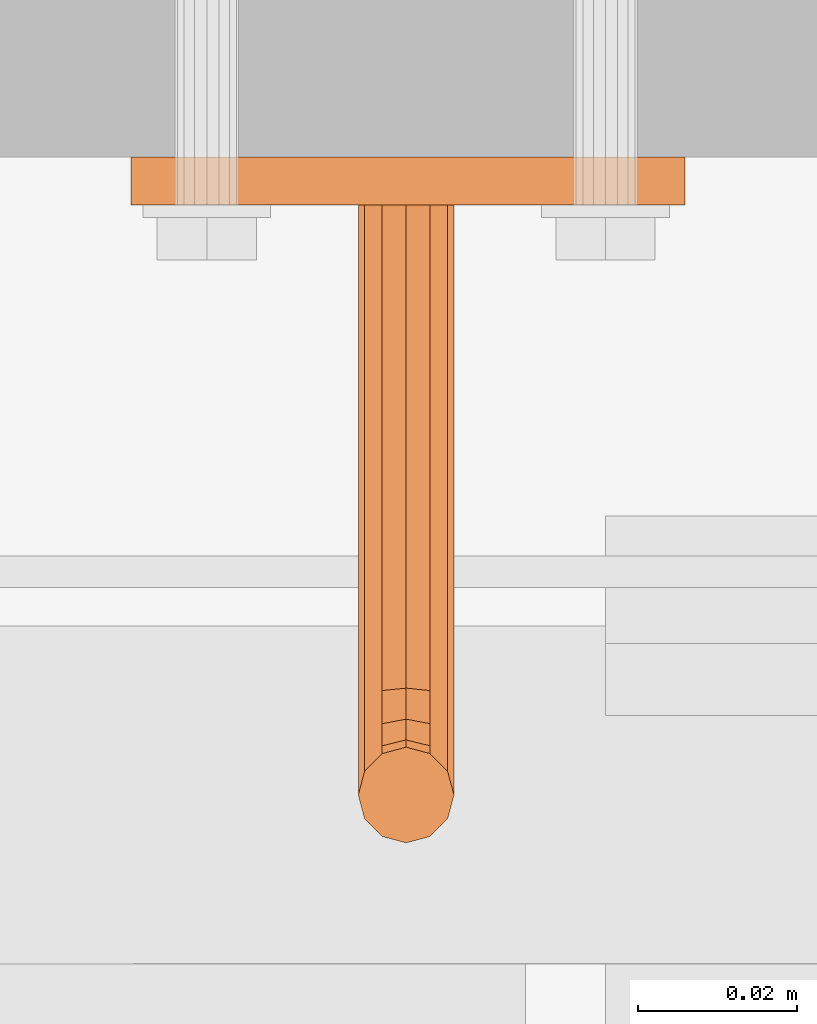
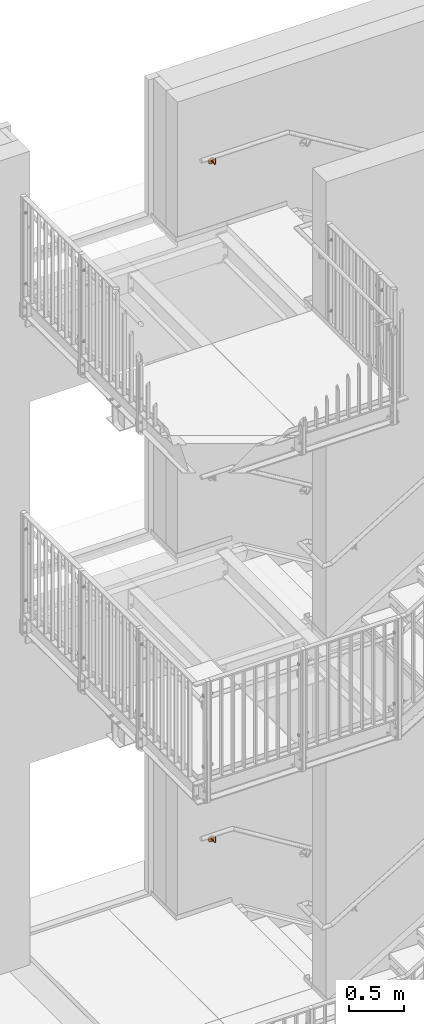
# One storey, part 380 of 410: 2 proxies.
"""IFC2X3 building model written with IfcOpenShell, lengths in millimetres."""

from ifc_helpers import new_model, entity, si_unit, converted_unit, origin_with_axes, place, context, project, spatial, faceted_brep, element, save


model = new_model("IFC2X3")

# Units and contexts
model_context = context("Model", 3, precision=1e-09, world=origin_with_axes())
ifc_project = project(units=[si_unit("LENGTHUNIT", "METRE", prefix="MILLI"), si_unit("AREAUNIT", "SQUARE_METRE"), si_unit("VOLUMEUNIT", "CUBIC_METRE"), converted_unit("PLANEANGLEUNIT", "DEGREE", entity("IfcPlaneAngleMeasure", 0.01745329), si_unit("PLANEANGLEUNIT", "RADIAN"), dimensions=[0, 0, 0, 0, 0, 0, 0])], contexts=[model_context])

# Site, building, storey
site_placement = place(None, origin_with_axes())
site = spatial("IfcSite", under=ifc_project, at=site_placement, Name="mKR Teilneubau & Sanierung BA1 - Ostfildern", CompositionType="ELEMENT")
building_placement = place(site_placement, origin_with_axes())
building = spatial("IfcBuilding", under=site, at=building_placement, Name="Struktur 1", CompositionType="ELEMENT")
storey_placement = place(building_placement, origin_with_axes())
storey = spatial("IfcBuildingStorey", under=building, at=storey_placement, Name="Default Storey", CompositionType="ELEMENT", Elevation=0.0)

# Proxies
proxy_1_placement = place(None, origin_with_axes())
element("IfcBuildingElementProxy", 1, at=proxy_1_placement, inside=storey, ObjectType="-", context=model_context, shape_type="Brep", body=[
    faceted_brep([(-1918.68139098, 18620.000061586, 8234.724465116), (-1918.68139098, 18614.000061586, 8234.724465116), (-1919.250783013, 18614.000061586, 8232.599465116), (-1919.250783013, 18620.000061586, 8232.599465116), (-1870.857597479, 18614.000061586, 8261.900291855), (-1881.408790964, 18614.000061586, 8266.528474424), (-1892.891060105, 18614.000061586, 8267.479922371), (-1904.060122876, 18614.000061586, 8264.651531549), (-1913.70563802, 18614.000061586, 8258.34980199), (-1920.782364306, 18614.000061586, 8249.257623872), (-1924.523428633, 18614.000061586, 8238.360275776), (-1924.523428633, 18614.000061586, 8226.838654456), (-1920.782364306, 18614.000061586, 8215.94130636), (-1913.70563802, 18614.000061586, 8206.849128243), (-1904.060122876, 18614.000061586, 8200.547398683), (-1892.891060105, 18614.000061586, 8197.719007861), (-1881.408790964, 18614.000061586, 8198.670455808), (-1870.857597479, 18614.000061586, 8203.298638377), (-1862.380865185, 18614.000061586, 8211.102020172), (-1856.897179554, 18614.000061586, 8221.234983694), (-1855.000783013, 18614.000061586, 8232.599465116), (-1856.897179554, 18614.000061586, 8243.963946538), (-1862.380865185, 18614.000061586, 8254.09691006), (-1917.125783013, 18614.000061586, 8236.280073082), (-1915.000783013, 18614.000061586, 8236.849465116), (-1912.875783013, 18614.000061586, 8236.280073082), (-1911.320175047, 18614.000061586, 8234.724465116), (-1910.750783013, 18614.000061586, 8232.599465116), (-1911.320175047, 18614.000061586, 8230.474465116), (-1912.875783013, 18614.000061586, 8228.91885715), (-1915.000783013, 18614.000061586, 8228.349465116), (-1917.125783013, 18614.000061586, 8228.91885715), (-1918.68139098, 18614.000061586, 8230.474465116), (-1868.68139098, 18614.000061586, 8234.724465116), (-1867.125783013, 18614.000061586, 8236.280073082), (-1865.000783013, 18614.000061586, 8236.849465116), (-1862.875783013, 18614.000061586, 8236.280073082), (-1861.320175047, 18614.000061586, 8234.724465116), (-1860.750783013, 18614.000061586, 8232.599465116), (-1861.320175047, 18614.000061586, 8230.474465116), (-1862.875783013, 18614.000061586, 8228.91885715), (-1865.000783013, 18614.000061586, 8228.349465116), (-1867.125783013, 18614.000061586, 8228.91885715), (-1868.68139098, 18614.000061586, 8230.474465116), (-1869.250783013, 18614.000061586, 8232.599465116), (-1917.125783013, 18620.000061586, 8236.280073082), (-1870.857597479, 18620.000061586, 8203.298638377), (-1881.408790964, 18620.000061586, 8198.670455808), (-1892.891060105, 18620.000061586, 8197.719007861), (-1904.060122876, 18620.000061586, 8200.547398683), (-1913.70563802, 18620.000061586, 8206.849128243), (-1920.782364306, 18620.000061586, 8215.94130636), (-1924.523428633, 18620.000061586, 8226.838654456), (-1924.523428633, 18620.000061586, 8238.360275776), (-1920.782364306, 18620.000061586, 8249.257623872), (-1913.70563802, 18620.000061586, 8258.34980199), (-1904.060122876, 18620.000061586, 8264.651531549), (-1892.891060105, 18620.000061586, 8267.479922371), (-1881.408790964, 18620.000061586, 8266.528474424), (-1870.857597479, 18620.000061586, 8261.900291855), (-1862.380865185, 18620.000061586, 8254.09691006), (-1856.897179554, 18620.000061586, 8243.963946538), (-1855.000783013, 18620.000061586, 8232.599465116), (-1856.897179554, 18620.000061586, 8221.234983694), (-1862.380865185, 18620.000061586, 8211.102020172), (-1918.68139098, 18620.000061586, 8230.474465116), (-1917.125783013, 18620.000061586, 8228.91885715), (-1915.000783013, 18620.000061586, 8228.349465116), (-1912.875783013, 18620.000061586, 8228.91885715), (-1911.320175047, 18620.000061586, 8230.474465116), (-1910.750783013, 18620.000061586, 8232.599465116), (-1911.320175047, 18620.000061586, 8234.724465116), (-1912.875783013, 18620.000061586, 8236.280073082), (-1915.000783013, 18620.000061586, 8236.849465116), (-1868.68139098, 18620.000061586, 8230.474465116), (-1867.125783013, 18620.000061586, 8228.91885715), (-1865.000783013, 18620.000061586, 8228.349465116), (-1862.875783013, 18620.000061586, 8228.91885715), (-1861.320175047, 18620.000061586, 8230.474465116), (-1860.750783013, 18620.000061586, 8232.599465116), (-1861.320175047, 18620.000061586, 8234.724465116), (-1862.875783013, 18620.000061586, 8236.280073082), (-1865.000783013, 18620.000061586, 8236.849465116), (-1867.125783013, 18620.000061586, 8236.280073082), (-1868.68139098, 18620.000061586, 8234.724465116), (-1869.250783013, 18620.000061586, 8232.599465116)], [[[0, 1, 2, 3]], [[4, 5, 6, 7, 8, 9, 10, 11, 12, 13, 14, 15, 16, 17, 18, 19, 20, 21, 22], [2, 1, 23, 24, 25, 26, 27, 28, 29, 30, 31, 32], [33, 34, 35, 36, 37, 38, 39, 40, 41, 42, 43, 44]], [[1, 0, 45, 23]], [[46, 47, 48, 49, 50, 51, 52, 53, 54, 55, 56, 57, 58, 59, 60, 61, 62, 63, 64], [0, 3, 65, 66, 67, 68, 69, 70, 71, 72, 73, 45], [74, 75, 76, 77, 78, 79, 80, 81, 82, 83, 84, 85]], [[3, 2, 32, 65]], [[10, 53, 52, 11]], [[65, 32, 31, 66]], [[23, 45, 73, 24]], [[53, 10, 9, 54]], [[66, 31, 30, 67]], [[11, 52, 51, 12]], [[24, 73, 72, 25]], [[8, 55, 54, 9]], [[67, 30, 29, 68]], [[55, 8, 7, 56]], [[50, 13, 12, 51]], [[25, 72, 71, 26]], [[13, 50, 49, 14]], [[68, 29, 28, 69]], [[26, 71, 70, 27]], [[56, 7, 6, 57]], [[69, 28, 27, 70]], [[14, 49, 48, 15]], [[57, 6, 5, 58]], [[44, 85, 84, 33]], [[15, 48, 47, 16]], [[85, 44, 43, 74]], [[33, 84, 83, 34]], [[58, 5, 4, 59]], [[16, 47, 46, 17]], [[74, 43, 42, 75]], [[34, 83, 82, 35]], [[59, 4, 22, 60]], [[17, 46, 64, 18]], [[75, 42, 41, 76]], [[35, 82, 81, 36]], [[60, 22, 21, 61]], [[18, 64, 63, 19]], [[76, 41, 40, 77]], [[20, 62, 61, 21]], [[36, 81, 80, 37]], [[62, 20, 19, 63]], [[77, 40, 39, 78]], [[37, 80, 79, 38]], [[78, 39, 38, 79]]]),
    faceted_brep([(-1884.000783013, 18558.000061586, 8232.599465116), (-1884.000783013, 18614.000061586, 8232.599465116), (-1884.804630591, 18614.000061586, 8235.599465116), (-1884.804630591, 18558.000061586, 8235.599465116), (-1884.804630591, 18537.000061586, 8250.599465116), (-1884.804630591, 18537.000061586, 8307.599465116), (-1887.000783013, 18534.803909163, 8307.599465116), (-1887.000783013, 18534.803909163, 8250.599465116), (-1884.000783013, 18540.000061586, 8250.599465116), (-1884.000783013, 18540.000061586, 8307.599465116), (-1887.000783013, 18536.569611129, 8241.722681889), (-1884.804630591, 18538.598591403, 8242.563113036), (-1893.000783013, 18614.000061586, 8227.403312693), (-1895.196935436, 18614.000061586, 8229.599465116), (-1896.000783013, 18614.000061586, 8232.599465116), (-1895.196935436, 18614.000061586, 8235.599465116), (-1893.000783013, 18614.000061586, 8237.795617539), (-1890.000783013, 18614.000061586, 8238.599465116), (-1887.000783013, 18614.000061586, 8237.795617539), (-1884.804630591, 18614.000061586, 8229.599465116), (-1887.000783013, 18614.000061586, 8227.403312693), (-1890.000783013, 18614.000061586, 8226.599465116), (-1884.804630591, 18558.000061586, 8229.599465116), (-1884.804630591, 18552.2598101, 8236.741272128), (-1884.000783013, 18551.111759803, 8233.969633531), (-1893.000783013, 18545.196214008, 8307.599465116), (-1895.196935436, 18543.000061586, 8307.599465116), (-1896.000783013, 18540.000061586, 8307.599465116), (-1895.196935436, 18537.000061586, 8307.599465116), (-1893.000783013, 18534.803909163, 8307.599465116), (-1890.000783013, 18534.000061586, 8307.599465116), (-1884.804630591, 18543.000061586, 8307.599465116), (-1887.000783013, 18545.196214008, 8307.599465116), (-1890.000783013, 18546.000061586, 8307.599465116), (-1884.000783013, 18541.37023, 8243.711163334), (-1884.804630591, 18543.150819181, 8235.750222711), (-1884.000783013, 18545.272139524, 8237.871543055), (-1887.000783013, 18558.000061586, 8237.795617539), (-1884.804630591, 18549.963709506, 8231.197994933), (-1890.000783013, 18534.000061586, 8250.599465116), (-1884.804630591, 18543.000061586, 8250.599465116), (-1890.000783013, 18535.826952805, 8241.415062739), (-1887.000783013, 18541.59790491, 8234.197308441), (-1884.804630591, 18547.393459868, 8239.992863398), (-1887.000783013, 18553.100241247, 8238.770252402), (-1887.000783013, 18558.000061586, 8227.403312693), (-1884.804630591, 18544.141868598, 8244.859213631), (-1890.000783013, 18558.000061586, 8238.599465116), (-1887.000783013, 18549.123278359, 8229.16901466), (-1893.000783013, 18534.803909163, 8250.599465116), (-1887.000783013, 18545.196214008, 8250.599465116), (-1893.000783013, 18536.569611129, 8241.722681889), (-1890.000783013, 18541.029498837, 8233.628902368), (-1887.000783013, 18548.946374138, 8241.545777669), (-1890.000783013, 18553.407860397, 8239.512910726), (-1890.000783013, 18558.000061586, 8226.599465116), (-1887.000783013, 18546.170848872, 8245.699644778), (-1895.196935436, 18537.000061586, 8250.599465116), (-1893.000783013, 18558.000061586, 8237.795617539), (-1890.000783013, 18548.815659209, 8228.426356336), (-1890.000783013, 18546.000061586, 8250.599465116), (-1895.196935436, 18538.598591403, 8242.563113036), (-1893.000783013, 18541.59790491, 8234.197308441), (-1890.000783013, 18549.514780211, 8242.114183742), (-1893.000783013, 18553.100241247, 8238.770252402), (-1893.000783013, 18558.000061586, 8227.403312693), (-1890.000783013, 18546.913507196, 8246.007263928), (-1896.000783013, 18540.000061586, 8250.599465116), (-1895.196935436, 18558.000061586, 8235.599465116), (-1893.000783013, 18549.123278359, 8229.16901466), (-1893.000783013, 18545.196214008, 8250.599465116), (-1895.196935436, 18543.000061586, 8250.599465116), (-1896.000783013, 18541.37023, 8243.711163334), (-1895.196935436, 18543.150819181, 8235.750222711), (-1893.000783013, 18548.946374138, 8241.545777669), (-1895.196935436, 18552.2598101, 8236.741272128), (-1896.000783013, 18558.000061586, 8232.599465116), (-1895.196935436, 18558.000061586, 8229.599465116), (-1893.000783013, 18546.170848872, 8245.699644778), (-1895.196935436, 18549.963709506, 8231.197994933), (-1895.196935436, 18544.141868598, 8244.859213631), (-1896.000783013, 18545.272139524, 8237.871543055), (-1896.000783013, 18551.111759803, 8233.969633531), (-1895.196935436, 18547.393459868, 8239.992863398)], [[[0, 1, 2, 3]], [[4, 5, 6, 7]], [[5, 4, 8, 9]], [[4, 7, 10, 11]], [[12, 13, 14, 15, 16, 17, 18, 2, 1, 19, 20, 21]], [[1, 0, 22, 19]], [[0, 3, 23, 24]], [[25, 26, 27, 28, 29, 30, 6, 5, 9, 31, 32, 33]], [[11, 34, 8, 4]], [[35, 36, 34, 11]], [[3, 2, 18, 37]], [[24, 38, 22, 0]], [[36, 35, 38, 24]], [[7, 6, 30, 39]], [[9, 8, 40, 31]], [[7, 39, 41, 10]], [[11, 10, 42, 35]], [[24, 23, 43, 36]], [[3, 37, 44, 23]], [[19, 22, 45, 20]], [[36, 43, 46, 34]], [[34, 46, 40, 8]], [[37, 18, 17, 47]], [[38, 48, 45, 22]], [[35, 42, 48, 38]], [[39, 30, 29, 49]], [[31, 40, 50, 32]], [[39, 49, 51, 41]], [[10, 41, 52, 42]], [[23, 44, 53, 43]], [[37, 47, 54, 44]], [[20, 45, 55, 21]], [[43, 53, 56, 46]], [[46, 56, 50, 40]], [[49, 29, 28, 57]], [[47, 17, 16, 58]], [[48, 59, 55, 45]], [[42, 52, 59, 48]], [[32, 50, 60, 33]], [[49, 57, 61, 51]], [[41, 51, 62, 52]], [[44, 54, 63, 53]], [[47, 58, 64, 54]], [[21, 55, 65, 12]], [[56, 66, 60, 50]], [[53, 63, 66, 56]], [[57, 28, 27, 67]], [[58, 16, 15, 68]], [[59, 69, 65, 55]], [[52, 62, 69, 59]], [[33, 60, 70, 25]], [[26, 71, 67, 27]], [[25, 70, 71, 26]], [[57, 67, 72, 61]], [[51, 61, 73, 62]], [[54, 64, 74, 63]], [[58, 68, 75, 64]], [[14, 76, 68, 15]], [[13, 77, 76, 14]], [[12, 65, 77, 13]], [[66, 78, 70, 60]], [[63, 74, 78, 66]], [[69, 79, 77, 65]], [[62, 73, 79, 69]], [[67, 71, 80, 72]], [[71, 70, 78, 80]], [[61, 72, 81, 73]], [[68, 76, 82, 75]], [[64, 75, 83, 74]], [[76, 77, 79, 82]], [[74, 83, 80, 78]], [[73, 81, 82, 79]], [[72, 80, 83, 81]], [[75, 82, 81, 83]]]),
])
proxy_2_placement = place(None, origin_with_axes())
element("IfcBuildingElementProxy", 2, at=proxy_2_placement, inside=storey, ObjectType="-", context=model_context, shape_type="Brep", body=[
    faceted_brep([(-1918.68139098, 18620.000061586, 734.724463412), (-1918.68139098, 18614.000061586, 734.724463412), (-1919.250783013, 18614.000061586, 732.599463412), (-1919.250783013, 18620.000061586, 732.599463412), (-1870.857597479, 18614.000061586, 761.900290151), (-1881.408790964, 18614.000061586, 766.52847272), (-1892.891060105, 18614.000061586, 767.479920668), (-1904.060122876, 18614.000061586, 764.651529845), (-1913.70563802, 18614.000061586, 758.349800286), (-1920.782364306, 18614.000061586, 749.257622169), (-1924.523428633, 18614.000061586, 738.360274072), (-1924.523428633, 18614.000061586, 726.838652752), (-1920.782364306, 18614.000061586, 715.941304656), (-1913.70563802, 18614.000061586, 706.849126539), (-1904.060122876, 18614.000061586, 700.547396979), (-1892.891060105, 18614.000061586, 697.719006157), (-1881.408790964, 18614.000061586, 698.670454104), (-1870.857597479, 18614.000061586, 703.298636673), (-1862.380865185, 18614.000061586, 711.102018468), (-1856.897179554, 18614.000061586, 721.23498199), (-1855.000783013, 18614.000061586, 732.599463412), (-1856.897179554, 18614.000061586, 743.963944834), (-1862.380865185, 18614.000061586, 754.096908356), (-1917.125783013, 18614.000061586, 736.280071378), (-1915.000783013, 18614.000061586, 736.849463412), (-1912.875783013, 18614.000061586, 736.280071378), (-1911.320175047, 18614.000061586, 734.724463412), (-1910.750783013, 18614.000061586, 732.599463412), (-1911.320175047, 18614.000061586, 730.474463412), (-1912.875783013, 18614.000061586, 728.918855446), (-1915.000783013, 18614.000061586, 728.349463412), (-1917.125783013, 18614.000061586, 728.918855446), (-1918.68139098, 18614.000061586, 730.474463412), (-1868.68139098, 18614.000061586, 734.724463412), (-1867.125783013, 18614.000061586, 736.280071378), (-1865.000783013, 18614.000061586, 736.849463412), (-1862.875783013, 18614.000061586, 736.280071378), (-1861.320175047, 18614.000061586, 734.724463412), (-1860.750783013, 18614.000061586, 732.599463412), (-1861.320175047, 18614.000061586, 730.474463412), (-1862.875783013, 18614.000061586, 728.918855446), (-1865.000783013, 18614.000061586, 728.349463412), (-1867.125783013, 18614.000061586, 728.918855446), (-1868.68139098, 18614.000061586, 730.474463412), (-1869.250783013, 18614.000061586, 732.599463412), (-1917.125783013, 18620.000061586, 736.280071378), (-1870.857597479, 18620.000061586, 703.298636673), (-1881.408790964, 18620.000061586, 698.670454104), (-1892.891060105, 18620.000061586, 697.719006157), (-1904.060122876, 18620.000061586, 700.547396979), (-1913.70563802, 18620.000061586, 706.849126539), (-1920.782364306, 18620.000061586, 715.941304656), (-1924.523428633, 18620.000061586, 726.838652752), (-1924.523428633, 18620.000061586, 738.360274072), (-1920.782364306, 18620.000061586, 749.257622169), (-1913.70563802, 18620.000061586, 758.349800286), (-1904.060122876, 18620.000061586, 764.651529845), (-1892.891060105, 18620.000061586, 767.479920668), (-1881.408790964, 18620.000061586, 766.52847272), (-1870.857597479, 18620.000061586, 761.900290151), (-1862.380865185, 18620.000061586, 754.096908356), (-1856.897179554, 18620.000061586, 743.963944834), (-1855.000783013, 18620.000061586, 732.599463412), (-1856.897179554, 18620.000061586, 721.23498199), (-1862.380865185, 18620.000061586, 711.102018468), (-1918.68139098, 18620.000061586, 730.474463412), (-1917.125783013, 18620.000061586, 728.918855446), (-1915.000783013, 18620.000061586, 728.349463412), (-1912.875783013, 18620.000061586, 728.918855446), (-1911.320175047, 18620.000061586, 730.474463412), (-1910.750783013, 18620.000061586, 732.599463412), (-1911.320175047, 18620.000061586, 734.724463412), (-1912.875783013, 18620.000061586, 736.280071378), (-1915.000783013, 18620.000061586, 736.849463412), (-1868.68139098, 18620.000061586, 730.474463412), (-1867.125783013, 18620.000061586, 728.918855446), (-1865.000783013, 18620.000061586, 728.349463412), (-1862.875783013, 18620.000061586, 728.918855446), (-1861.320175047, 18620.000061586, 730.474463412), (-1860.750783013, 18620.000061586, 732.599463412), (-1861.320175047, 18620.000061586, 734.724463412), (-1862.875783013, 18620.000061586, 736.280071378), (-1865.000783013, 18620.000061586, 736.849463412), (-1867.125783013, 18620.000061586, 736.280071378), (-1868.68139098, 18620.000061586, 734.724463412), (-1869.250783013, 18620.000061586, 732.599463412)], [[[0, 1, 2, 3]], [[4, 5, 6, 7, 8, 9, 10, 11, 12, 13, 14, 15, 16, 17, 18, 19, 20, 21, 22], [2, 1, 23, 24, 25, 26, 27, 28, 29, 30, 31, 32], [33, 34, 35, 36, 37, 38, 39, 40, 41, 42, 43, 44]], [[1, 0, 45, 23]], [[46, 47, 48, 49, 50, 51, 52, 53, 54, 55, 56, 57, 58, 59, 60, 61, 62, 63, 64], [0, 3, 65, 66, 67, 68, 69, 70, 71, 72, 73, 45], [74, 75, 76, 77, 78, 79, 80, 81, 82, 83, 84, 85]], [[3, 2, 32, 65]], [[10, 53, 52, 11]], [[65, 32, 31, 66]], [[23, 45, 73, 24]], [[53, 10, 9, 54]], [[66, 31, 30, 67]], [[11, 52, 51, 12]], [[24, 73, 72, 25]], [[8, 55, 54, 9]], [[67, 30, 29, 68]], [[55, 8, 7, 56]], [[50, 13, 12, 51]], [[25, 72, 71, 26]], [[13, 50, 49, 14]], [[68, 29, 28, 69]], [[26, 71, 70, 27]], [[56, 7, 6, 57]], [[69, 28, 27, 70]], [[14, 49, 48, 15]], [[57, 6, 5, 58]], [[44, 85, 84, 33]], [[15, 48, 47, 16]], [[85, 44, 43, 74]], [[33, 84, 83, 34]], [[58, 5, 4, 59]], [[16, 47, 46, 17]], [[74, 43, 42, 75]], [[34, 83, 82, 35]], [[59, 4, 22, 60]], [[17, 46, 64, 18]], [[75, 42, 41, 76]], [[35, 82, 81, 36]], [[60, 22, 21, 61]], [[18, 64, 63, 19]], [[76, 41, 40, 77]], [[20, 62, 61, 21]], [[36, 81, 80, 37]], [[62, 20, 19, 63]], [[77, 40, 39, 78]], [[37, 80, 79, 38]], [[78, 39, 38, 79]]]),
    faceted_brep([(-1884.000783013, 18558.000061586, 732.599463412), (-1884.000783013, 18614.000061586, 732.599463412), (-1884.804630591, 18614.000061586, 735.599463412), (-1884.804630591, 18558.000061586, 735.599463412), (-1884.804630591, 18537.000061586, 750.599463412), (-1884.804630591, 18537.000061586, 807.599463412), (-1887.000783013, 18534.803909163, 807.599463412), (-1887.000783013, 18534.803909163, 750.599463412), (-1884.000783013, 18540.000061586, 750.599463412), (-1884.000783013, 18540.000061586, 807.599463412), (-1887.000783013, 18536.569611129, 741.722680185), (-1884.804630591, 18538.598591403, 742.563111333), (-1893.000783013, 18614.000061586, 727.40331099), (-1895.196935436, 18614.000061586, 729.599463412), (-1896.000783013, 18614.000061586, 732.599463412), (-1895.196935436, 18614.000061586, 735.599463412), (-1893.000783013, 18614.000061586, 737.795615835), (-1890.000783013, 18614.000061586, 738.599463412), (-1887.000783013, 18614.000061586, 737.795615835), (-1884.804630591, 18614.000061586, 729.599463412), (-1887.000783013, 18614.000061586, 727.40331099), (-1890.000783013, 18614.000061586, 726.599463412), (-1884.804630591, 18558.000061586, 729.599463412), (-1884.804630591, 18552.2598101, 736.741270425), (-1884.000783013, 18551.111759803, 733.969631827), (-1893.000783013, 18545.196214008, 807.599463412), (-1895.196935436, 18543.000061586, 807.599463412), (-1896.000783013, 18540.000061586, 807.599463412), (-1895.196935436, 18537.000061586, 807.599463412), (-1893.000783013, 18534.803909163, 807.599463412), (-1890.000783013, 18534.000061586, 807.599463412), (-1884.804630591, 18543.000061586, 807.599463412), (-1887.000783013, 18545.196214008, 807.599463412), (-1890.000783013, 18546.000061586, 807.599463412), (-1884.000783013, 18541.37023, 743.71116163), (-1884.804630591, 18543.150819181, 735.750221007), (-1884.000783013, 18545.272139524, 737.871541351), (-1887.000783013, 18558.000061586, 737.795615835), (-1884.804630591, 18549.963709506, 731.19799323), (-1890.000783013, 18534.000061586, 750.599463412), (-1884.804630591, 18543.000061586, 750.599463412), (-1890.000783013, 18535.826952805, 741.415061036), (-1887.000783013, 18541.59790491, 734.197306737), (-1884.804630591, 18547.393459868, 739.992861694), (-1887.000783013, 18553.100241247, 738.770250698), (-1887.000783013, 18558.000061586, 727.40331099), (-1884.804630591, 18544.141868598, 744.859211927), (-1890.000783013, 18558.000061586, 738.599463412), (-1887.000783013, 18549.123278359, 729.169012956), (-1893.000783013, 18534.803909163, 750.599463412), (-1887.000783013, 18545.196214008, 750.599463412), (-1893.000783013, 18536.569611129, 741.722680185), (-1890.000783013, 18541.029498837, 733.628900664), (-1887.000783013, 18548.946374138, 741.545775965), (-1890.000783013, 18553.407860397, 739.512909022), (-1890.000783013, 18558.000061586, 726.599463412), (-1887.000783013, 18546.170848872, 745.699643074), (-1895.196935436, 18537.000061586, 750.599463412), (-1893.000783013, 18558.000061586, 737.795615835), (-1890.000783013, 18548.815659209, 728.426354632), (-1890.000783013, 18546.000061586, 750.599463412), (-1895.196935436, 18538.598591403, 742.563111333), (-1893.000783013, 18541.59790491, 734.197306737), (-1890.000783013, 18549.514780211, 742.114182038), (-1893.000783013, 18553.100241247, 738.770250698), (-1893.000783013, 18558.000061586, 727.40331099), (-1890.000783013, 18546.913507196, 746.007262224), (-1896.000783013, 18540.000061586, 750.599463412), (-1895.196935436, 18558.000061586, 735.599463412), (-1893.000783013, 18549.123278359, 729.169012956), (-1893.000783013, 18545.196214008, 750.599463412), (-1895.196935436, 18543.000061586, 750.599463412), (-1896.000783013, 18541.37023, 743.71116163), (-1895.196935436, 18543.150819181, 735.750221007), (-1893.000783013, 18548.946374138, 741.545775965), (-1895.196935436, 18552.2598101, 736.741270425), (-1896.000783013, 18558.000061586, 732.599463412), (-1895.196935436, 18558.000061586, 729.599463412), (-1893.000783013, 18546.170848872, 745.699643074), (-1895.196935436, 18549.963709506, 731.19799323), (-1895.196935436, 18544.141868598, 744.859211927), (-1896.000783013, 18545.272139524, 737.871541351), (-1896.000783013, 18551.111759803, 733.969631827), (-1895.196935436, 18547.393459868, 739.992861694)], [[[0, 1, 2, 3]], [[4, 5, 6, 7]], [[5, 4, 8, 9]], [[4, 7, 10, 11]], [[12, 13, 14, 15, 16, 17, 18, 2, 1, 19, 20, 21]], [[1, 0, 22, 19]], [[0, 3, 23, 24]], [[25, 26, 27, 28, 29, 30, 6, 5, 9, 31, 32, 33]], [[11, 34, 8, 4]], [[35, 36, 34, 11]], [[3, 2, 18, 37]], [[24, 38, 22, 0]], [[36, 35, 38, 24]], [[7, 6, 30, 39]], [[9, 8, 40, 31]], [[7, 39, 41, 10]], [[11, 10, 42, 35]], [[24, 23, 43, 36]], [[3, 37, 44, 23]], [[19, 22, 45, 20]], [[36, 43, 46, 34]], [[34, 46, 40, 8]], [[37, 18, 17, 47]], [[38, 48, 45, 22]], [[35, 42, 48, 38]], [[39, 30, 29, 49]], [[31, 40, 50, 32]], [[39, 49, 51, 41]], [[10, 41, 52, 42]], [[23, 44, 53, 43]], [[37, 47, 54, 44]], [[20, 45, 55, 21]], [[43, 53, 56, 46]], [[46, 56, 50, 40]], [[49, 29, 28, 57]], [[47, 17, 16, 58]], [[48, 59, 55, 45]], [[42, 52, 59, 48]], [[32, 50, 60, 33]], [[49, 57, 61, 51]], [[41, 51, 62, 52]], [[44, 54, 63, 53]], [[47, 58, 64, 54]], [[21, 55, 65, 12]], [[56, 66, 60, 50]], [[53, 63, 66, 56]], [[57, 28, 27, 67]], [[58, 16, 15, 68]], [[59, 69, 65, 55]], [[52, 62, 69, 59]], [[33, 60, 70, 25]], [[26, 71, 67, 27]], [[25, 70, 71, 26]], [[57, 67, 72, 61]], [[51, 61, 73, 62]], [[54, 64, 74, 63]], [[58, 68, 75, 64]], [[14, 76, 68, 15]], [[13, 77, 76, 14]], [[12, 65, 77, 13]], [[66, 78, 70, 60]], [[63, 74, 78, 66]], [[69, 79, 77, 65]], [[62, 73, 79, 69]], [[67, 71, 80, 72]], [[71, 70, 78, 80]], [[61, 72, 81, 73]], [[68, 76, 82, 75]], [[64, 75, 83, 74]], [[76, 77, 79, 82]], [[74, 83, 80, 78]], [[73, 81, 82, 79]], [[72, 80, 83, 81]], [[75, 82, 81, 83]]]),
])

save(model, "model.ifc")
